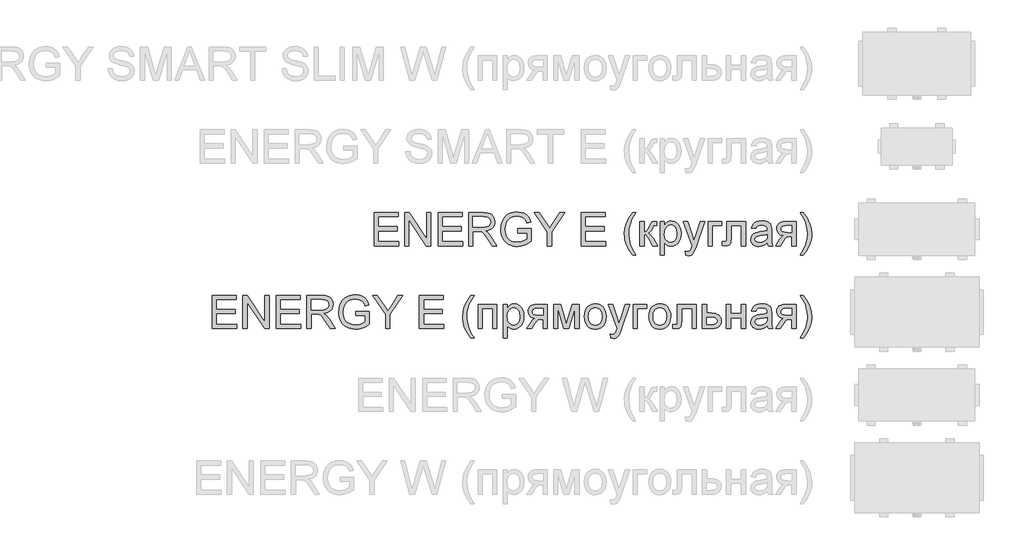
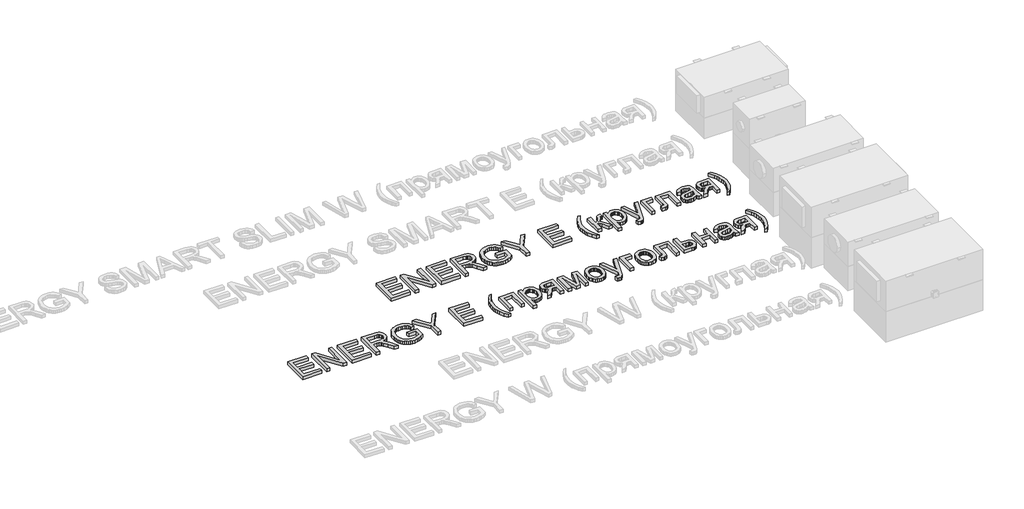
# One storey, part 23 of 28: 2 proxies.
"""IFC4 building model written with IfcOpenShell, lengths in millimetres."""

from ifc_helpers import new_model, si_unit, origin, origin_with_axes, place, context, project, spatial, polyline, outline, extrude, element, save

model = new_model("IFC4")

# Units and contexts
model_context = context("Model", 3, world=origin())
ifc_project = project(units=[si_unit("LENGTHUNIT", "METRE", prefix="MILLI")], contexts=[model_context])

# Site, building, storey
site = spatial("IfcSite", under=ifc_project)
building = spatial("IfcBuilding", under=site)
storey = spatial("IfcBuildingStorey", under=building, Name="Уровень 1", Elevation=0.0)

# Proxies
placement = place(None, origin())
element("IfcBuildingElementProxy", 1, Name="400 мм Arial", ObjectType="400 мм Arial", at=placement, inside=storey, context=model_context, shape_type="SweptSolid", body=[
    extrude(outline(polyline([(-27227.6713932, 18271.3067858), (-27227.6713932, 18673.1320263), (-26938.8595016, 18673.1320263), (-26938.8595016, 18622.9038713), (-27177.4432382, 18622.9038713), (-27177.4432382, 18503.612003), (-26951.4165403, 18503.612003), (-26951.4165403, 18453.3838479), (-27177.4432382, 18453.3838479), (-27177.4432382, 18321.5349408), (-26932.5809822, 18321.5349408), (-26932.5809822, 18271.3067858), (-27227.6713932, 18271.3067858)])), origin_with_axes(), (0.0, 0.0, 1.0), 50.0),
    extrude(outline(polyline([(-26857.2387496, 18271.3067858), (-26857.2387496, 18673.1320263), (-26803.4789273, 18673.1320263), (-26593.5409354, 18354.7914732), (-26593.5409354, 18673.1320263), (-26543.3127803, 18673.1320263), (-26543.3127803, 18271.3067858), (-26597.0726026, 18271.3067858), (-26807.0105945, 18589.7454408), (-26807.0105945, 18271.3067858), (-26857.2387496, 18271.3067858)])), origin_with_axes(), (0.0, 0.0, 1.0), 50.0),
    extrude(outline(polyline([(-26455.413509, 18271.3067858), (-26455.413509, 18673.1320263), (-26166.6016173, 18673.1320263), (-26166.6016173, 18622.9038713), (-26405.1853539, 18622.9038713), (-26405.1853539, 18503.612003), (-26179.1586561, 18503.612003), (-26179.1586561, 18453.3838479), (-26405.1853539, 18453.3838479), (-26405.1853539, 18321.5349408), (-26160.3230979, 18321.5349408), (-26160.3230979, 18271.3067858), (-26455.413509, 18271.3067858)])), origin_with_axes(), (0.0, 0.0, 1.0), 50.0),
    extrude(outline(polyline([(-26084.9808653, 18271.3067858), (-26084.9808653, 18673.1320263), (-25911.8310729, 18673.1320263), (-25865.2940005, 18670.4219623), (-25831.4365942, 18662.2917702), (-25806.6903987, 18647.2821848), (-25787.4869585, 18623.9339409), (-25775.1629117, 18594.9816278), (-25771.0548961, 18563.1598353), (-25772.7563503, 18542.5216553), (-25777.860713, 18523.5757326), (-25786.3679841, 18506.322067), (-25798.2781637, 18490.7606586), (-25813.7445359, 18477.3881481), (-25832.9203849, 18466.7011761), (-25855.8057107, 18458.6997427), (-25882.4005133, 18453.3838479), (-25853.8528704, 18431.8995394), (-25813.1405963, 18380.1998563), (-25746.1370223, 18271.3067858), (-25804.5076322, 18271.3067858), (-25856.7959264, 18354.5952695), (-25894.5651446, 18409.7285178), (-25908.6059741, 18425.804961), (-25921.1016992, 18435.7745631), (-25944.9895034, 18445.3394949), (-25974.1257574, 18447.1053285), (-26034.7527102, 18447.1053285), (-26034.7527102, 18271.3067858), (-26084.9808653, 18271.3067858)]), holes=[polyline([(-26034.7527102, 18497.3334836), (-25922.3279725, 18497.3334836), (-25890.040196, 18499.1115799), (-25864.9874322, 18504.4458688), (-25846.1273485, 18513.6919696), (-25832.4176129, 18527.2055016), (-25824.0666916, 18543.5517249), (-25821.2830511, 18561.2958998), (-25826.5928146, 18585.7968407), (-25842.522105, 18605.5398411), (-25854.6836706, 18613.1366043), (-25869.9293136, 18618.5628637), (-25909.6728318, 18622.9038713), (-26034.7527102, 18622.9038713), (-26034.7527102, 18497.3334836)])]), origin_with_axes(), (0.0, 0.0, 1.0), 50.0),
    extrude(outline(polyline([(-25494.8000432, 18428.2697704), (-25494.8000432, 18478.4979254), (-25331.5585392, 18478.4979254), (-25331.5585392, 18328.3039695), (-25371.228481, 18300.7128199), (-25412.1492216, 18280.9207686), (-25454.2226591, 18269.0013919), (-25497.3506917, 18265.0282664), (-25526.2018371, 18266.6070933), (-25553.6979506, 18271.343574), (-25579.839032, 18279.2377084), (-25604.6250814, 18290.2894967), (-25627.2559555, 18304.3333919), (-25646.9315109, 18321.203847), (-25663.6517476, 18340.9008622), (-25677.4166656, 18363.4244373), (-25688.1680169, 18388.0541369), (-25695.8475535, 18414.0695253), (-25700.4552755, 18441.4706026), (-25701.9911828, 18470.2573687), (-25695.872079, 18526.8498823), (-25688.2231992, 18553.6654141), (-25677.5147674, 18579.4937958), (-25663.9368561, 18603.2007247), (-25647.6795376, 18623.651898), (-25628.7428119, 18640.8473156), (-25607.126679, 18654.7869775), (-25583.3001885, 18665.5597886), (-25557.7323898, 18673.2546537), (-25530.423283, 18677.8715727), (-25501.3728681, 18679.4105457), (-25459.9984064, 18675.8420904), (-25422.793274, 18665.1367243), (-25391.4619907, 18648.0669997), (-25367.7090766, 18625.4054688), (-25350.1365799, 18596.0607484), (-25337.3465492, 18558.941455), (-25383.6506297, 18545.893907), (-25393.9881137, 18572.3691479), (-25406.5574152, 18592.3451402), (-25423.1856814, 18607.4037765), (-25445.7000595, 18619.1269495), (-25472.5431824, 18626.6685304), (-25502.1576831, 18629.1823907), (-25536.8244297, 18626.4723266), (-25566.4634558, 18618.3421345), (-25590.9643967, 18605.8096212), (-25610.2168878, 18589.8925936), (-25624.9934812, 18571.4126547), (-25636.0667293, 18551.1914077), (-25647.8389531, 18513.2750367), (-25651.7630278, 18472.3175079), (-25647.0418755, 18424.2843821), (-25632.8784187, 18384.7615931), (-25609.701853, 18354.0311837), (-25577.9413741, 18332.375197), (-25540.7730298, 18319.5361153), (-25501.3728681, 18315.2564214), (-25466.5834941, 18318.4815203), (-25432.6525114, 18328.1568167), (-25403.1851636, 18341.4864077), (-25381.7866942, 18355.67439), (-25381.7866942, 18428.2697704), (-25494.8000432, 18428.2697704)])), origin_with_axes(), (0.0, 0.0, 1.0), 50.0),
    extrude(outline(polyline([(-25136.9244382, 18271.3067858), (-25136.9244382, 18441.5135222), (-25293.8874229, 18673.1320263), (-25234.6338962, 18673.1320263), (-25150.8549031, 18549.4255741), (-25107.984388, 18486.3460747), (-25065.0157709, 18553.9382599), (-24988.9868253, 18673.1320263), (-24929.7332986, 18673.1320263), (-25086.6962832, 18441.5135222), (-25086.6962832, 18271.3067858), (-25136.9244382, 18271.3067858)])), origin_with_axes(), (0.0, 0.0, 1.0), 50.0),
    extrude(outline(polyline([(-24728.8206783, 18271.3067858), (-24728.8206783, 18673.1320263), (-24440.0087866, 18673.1320263), (-24440.0087866, 18622.9038713), (-24678.5925232, 18622.9038713), (-24678.5925232, 18503.612003), (-24452.5658254, 18503.612003), (-24452.5658254, 18453.3838479), (-24678.5925232, 18453.3838479), (-24678.5925232, 18321.5349408), (-24433.7302672, 18321.5349408), (-24433.7302672, 18271.3067858), (-24728.8206783, 18271.3067858)])), origin_with_axes(), (0.0, 0.0, 1.0), 50.0),
    extrude(outline(polyline([(-24107.2472592, 18158.2934368), (-24146.1691743, 18212.9116504), (-24178.5673153, 18276.1137772), (-24191.3144265, 18310.1673872), (-24200.4195059, 18344.8341339), (-24205.8825535, 18380.1140172), (-24207.7035694, 18416.0070372), (-24202.2589158, 18478.424349), (-24185.9249552, 18538.1438596), (-24153.5022887, 18605.7850958), (-24107.2472592, 18673.1320263), (-24069.5761429, 18673.1320263), (-24116.5669364, 18593.5714135), (-24132.6065914, 18555.8021954), (-24144.8202737, 18516.4633473), (-24154.3116291, 18466.2106668), (-24157.4754143, 18415.7127316), (-24151.9817098, 18351.3211197), (-24135.5005964, 18286.9540333), (-24108.0320741, 18222.6114723), (-24069.5761429, 18158.2934368), (-24107.2472592, 18158.2934368)])), origin_with_axes(), (0.0, 0.0, 1.0), 50.0),
    extrude(outline(polyline([(-24019.3479878, 18566.3971968), (-23969.1198328, 18566.3971968), (-23969.1198328, 18440.8268091), (-23948.6901193, 18443.083152), (-23935.4708929, 18449.8521807), (-23923.7722455, 18467.5105165), (-23907.9042688, 18502.4347806), (-23884.9974832, 18547.8068933), (-23875.5551787, 18556.967155), (-23864.7884989, 18562.5712241), (-23828.0493503, 18566.3971968), (-23818.4353675, 18566.3971968), (-23818.4353675, 18515.8747361), (-23831.973425, 18516.1690417), (-23847.6697234, 18514.8446666), (-23856.4988913, 18510.871541), (-23873.7648196, 18477.8112124), (-23884.3720838, 18455.7750809), (-23894.0228548, 18442.0530824), (-23905.7092395, 18432.8928208), (-23922.4233448, 18424.5418995), (-23906.5063172, 18417.4724338), (-23890.7364423, 18404.9951028), (-23875.1137203, 18387.1099065), (-23859.638151, 18363.8168448), (-23805.8783288, 18271.3067858), (-23862.9736144, 18271.3067858), (-23915.6543161, 18361.8548075), (-23929.8790866, 18385.9510782), (-23942.1418198, 18400.1635859), (-23954.5271803, 18407.1165556), (-23969.1198328, 18409.4342122), (-23969.1198328, 18271.3067858), (-24019.3479878, 18271.3067858), (-24019.3479878, 18566.3971968)])), origin_with_axes(), (0.0, 0.0, 1.0), 50.0),
    extrude(outline(polyline([(-23774.4857318, 18158.2934368), (-23774.4857318, 18566.3971968), (-23724.2575768, 18566.3971968), (-23724.2575768, 18517.1500604), (-23707.8745653, 18541.4425348), (-23689.5295164, 18558.7943022), (-23668.1433098, 18569.2053627), (-23642.6368248, 18572.6757162), (-23608.6690539, 18567.8196739), (-23578.9687141, 18553.2515469), (-23554.7866043, 18529.854252), (-23537.3735232, 18498.510706), (-23526.8520982, 18461.5017773), (-23523.3449565, 18421.1083342), (-23527.3058193, 18378.1519799), (-23539.1884077, 18339.7328369), (-23558.6125771, 18307.8006797), (-23585.1981826, 18284.3052829), (-23616.1615839, 18269.8475205), (-23648.7191404, 18265.0282664), (-23671.809867, 18268.2533652), (-23692.4235215, 18277.9286617), (-23710.0695945, 18292.5335769), (-23724.2575768, 18310.5475319), (-23724.2575768, 18158.2934368), (-23774.4857318, 18158.2934368)]), holes=[polyline([(-23724.2575768, 18416.4975465), (-23718.825186, 18371.4687903), (-23712.0346975, 18354.0311837), (-23702.5280136, 18339.9780915), (-23678.4807938, 18321.436839), (-23664.7189415, 18316.8015258), (-23649.7982609, 18315.2564214), (-23634.6629825, 18316.8567081), (-23620.6497442, 18321.6575682), (-23607.7585459, 18329.6590016), (-23595.9893878, 18340.8610083), (-23586.1822669, 18355.4230039), (-23579.1771806, 18373.504404), (-23574.9741288, 18395.1052085), (-23573.5731115, 18420.2254174), (-23579.0422905, 18465.0089189), (-23585.8787643, 18482.5814156), (-23595.4498275, 18496.9410761), (-23619.4602591, 18516.0709399), (-23633.0657615, 18520.8534058), (-23647.7381218, 18522.4475611), (-23662.3644968, 18520.7522383), (-23676.1263491, 18515.6662697), (-23701.0564856, 18495.3223953), (-23711.206963, 18480.2239051), (-23718.457304, 18462.0536003), (-23722.8075086, 18440.8114807), (-23724.2575768, 18416.4975465)])]), origin_with_axes(), (0.0, 0.0, 1.0), 50.0),
    extrude(outline(polyline([(-23466.838282, 18158.2934368), (-23473.1168014, 18206.6576565), (-23447.6103164, 18202.2430725), (-23434.1948863, 18203.6287614), (-23423.7715631, 18207.7858279), (-23409.1543852, 18223.2368717), (-23395.420124, 18260.221275), (-23391.4960494, 18272.3859063), (-23498.2308789, 18566.3971968), (-23445.2558716, 18566.3971968), (-23388.6510953, 18402.5670816), (-23368.9326204, 18337.0350356), (-23349.2141454, 18394.9151361), (-23291.0397392, 18566.3971968), (-23238.4571394, 18566.3971968), (-23341.1697925, 18264.2434514), (-23367.8534998, 18198.7114054), (-23381.5141846, 18177.7911826), (-23396.9897539, 18163.296632), (-23414.9669207, 18154.8353461), (-23436.1323981, 18152.0149174), (-23466.838282, 18158.2934368)])), origin_with_axes(), (0.0, 0.0, 1.0), 50.0),
    extrude(outline(polyline([(-23196.8619485, 18566.3971968), (-23033.6204445, 18566.3971968), (-23033.6204445, 18516.1690417), (-23146.6337934, 18516.1690417), (-23146.6337934, 18271.3067858), (-23196.8619485, 18271.3067858), (-23196.8619485, 18566.3971968)])), origin_with_axes(), (0.0, 0.0, 1.0), 50.0),
    extrude(outline(polyline([(-22970.8352506, 18566.3971968), (-22744.8085528, 18566.3971968), (-22744.8085528, 18271.6010913), (-22795.0367079, 18271.6010913), (-22795.0367079, 18516.1690417), (-22920.6070956, 18516.1690417), (-22920.6070956, 18375.3928649), (-22923.9916099, 18310.44943), (-22930.331443, 18295.746413), (-22942.5819134, 18283.0299587), (-22961.1722169, 18274.237579), (-22986.5315491, 18271.3067858), (-23027.3419251, 18273.8574343), (-23027.3419251, 18321.5349408), (-23004.8765979, 18321.5349408), (-22982.1660161, 18324.6251496), (-22973.0915936, 18334.4353361), (-22970.8352506, 18378.237819), (-22970.8352506, 18566.3971968)])), origin_with_axes(), (0.0, 0.0, 1.0), 50.0),
    extrude(outline(polyline([(-22481.1107387, 18308.9779021), (-22505.1089075, 18288.4010358), (-22529.8183148, 18274.9365548), (-22555.8030464, 18267.5053385), (-22583.627188, 18265.0282664), (-22605.9913476, 18266.5181884), (-22625.6025236, 18270.9879547), (-22642.4607161, 18278.4375651), (-22656.5659249, 18288.8670197), (-22667.7035523, 18301.6141308), (-22675.6590005, 18316.0167109), (-22680.4322693, 18332.07476), (-22682.023359, 18349.7882781), (-22679.6198633, 18370.610399), (-22672.4093762, 18389.5195335), (-22661.2870772, 18405.7063413), (-22647.1481458, 18418.361482), (-22630.5321424, 18427.9264138), (-22611.9786271, 18434.8425953), (-22568.5195007, 18442.396439), (-22517.1631742, 18450.3426901), (-22481.4050443, 18459.6623673), (-22481.1107387, 18470.8459799), (-22484.5688294, 18493.2622562), (-22494.9431017, 18507.928485), (-22518.1441928, 18518.8177921), (-22550.4687575, 18522.4475611), (-22580.3898264, 18520.0318027), (-22601.2855238, 18512.7845274), (-22615.5348197, 18499.38136), (-22625.5166845, 18478.4979254), (-22675.7448396, 18484.7764448), (-22667.0260363, 18512.2449671), (-22654.0152764, 18533.8273775), (-22635.4985493, 18550.3330164), (-22610.2618444, 18562.5712241), (-22579.396545, 18570.1495932), (-22543.9940344, 18572.6757162), (-22510.0385262, 18570.4438988), (-22483.1218269, 18563.7484465), (-22462.8270035, 18553.6807425), (-22448.7371231, 18541.3321702), (-22439.3929204, 18526.0650674), (-22433.3351302, 18507.241772), (-22430.8825836, 18463.2921363), (-22430.8825836, 18400.8012481), (-22428.3319351, 18313.5396388), (-22418.3255448, 18271.3067858), (-22468.5536999, 18271.3067858), (-22476.5980529, 18288.7689178), (-22481.1107387, 18308.9779021)]), holes=[polyline([(-22481.1107387, 18409.4342122), (-22514.8577804, 18401.0710282), (-22562.1428795, 18394.0322193), (-22605.3567512, 18385.8897645), (-22616.6016775, 18380.3224837), (-22624.9280733, 18372.6460127), (-22630.0784212, 18363.4489628), (-22631.7952039, 18353.3199452), (-22628.0550703, 18338.3839362), (-22616.8346694, 18326.1457285), (-22598.379256, 18317.9787482), (-22572.9340847, 18315.2564214), (-22545.9560717, 18318.2607911), (-22522.1173184, 18327.2739), (-22502.7912509, 18340.55444), (-22489.3512954, 18356.361103), (-22483.391607, 18372.6460127), (-22481.4050443, 18395.2094417), (-22481.1107387, 18409.4342122)])]), origin_with_axes(), (0.0, 0.0, 1.0), 50.0),
    extrude(outline(polyline([(-22135.7921725, 18566.3971968), (-22135.7921725, 18271.3067858), (-22186.0203276, 18271.3067858), (-22186.0203276, 18384.3201347), (-22213.390748, 18384.3201347), (-22235.2184131, 18382.7259794), (-22250.6694569, 18377.9435134), (-22265.556415, 18364.037574), (-22285.6918228, 18335.0729982), (-22325.7173839, 18271.3067858), (-22383.7936882, 18271.3067858), (-22333.3693294, 18351.9465191), (-22311.100206, 18380.8865694), (-22290.5969161, 18393.7379137), (-22324.932569, 18404.2593388), (-22338.2744227, 18413.0701126), (-22349.0656279, 18424.2475939), (-22363.3394493, 18450.8331994), (-22368.0973897, 18481.1466758), (-22366.4725776, 18499.2342072), (-22361.5981412, 18515.5313796), (-22353.4740804, 18530.038193), (-22342.1003954, 18542.7546473), (-22327.6487644, 18553.0982627), (-22310.2908656, 18560.4865594), (-22290.026699, 18564.9195375), (-22266.8562647, 18566.3971968), (-22135.7921725, 18566.3971968)]), holes=[polyline([(-22186.0203276, 18516.1690417), (-22252.2390867, 18516.1690417), (-22286.4398496, 18513.262774), (-22305.8517562, 18504.5439707), (-22314.864865, 18491.9256183), (-22317.8692347, 18477.3207031), (-22313.442388, 18458.1785766), (-22300.161848, 18444.8980365), (-22275.6241189, 18437.1357264), (-22237.4257051, 18434.5482897), (-22186.0203276, 18434.5482897), (-22186.0203276, 18516.1690417)])]), origin_with_axes(), (0.0, 0.0, 1.0), 50.0),
    extrude(outline(polyline([(-22047.8929011, 18158.2934368), (-22085.5640175, 18158.2934368), (-22047.1080862, 18222.6114723), (-22019.6395639, 18286.9540333), (-22003.1584505, 18351.3211197), (-21997.6647461, 18415.7127316), (-22000.8285312, 18465.8427848), (-22010.3198867, 18515.5804305), (-22022.3128397, 18554.992855), (-22038.2789183, 18592.7865986), (-22085.5640175, 18673.1320263), (-22047.8929011, 18673.1320263), (-22001.6378716, 18605.7850958), (-21969.2152051, 18538.1438596), (-21952.8812445, 18478.424349), (-21947.436591, 18416.0070372), (-21949.2668039, 18380.1140172), (-21954.7574427, 18344.8341339), (-21963.9085073, 18310.1673872), (-21976.7199978, 18276.1137772), (-22009.1549271, 18212.9116504), (-22047.8929011, 18158.2934368)])), origin_with_axes(), (0.0, 0.0, 1.0), 50.0),
])
element("IfcBuildingElementProxy", 2, Name="400 мм Arial", ObjectType="400 мм Arial", at=placement, inside=storey, context=model_context, shape_type="SweptSolid", body=[
    extrude(outline(polyline([(-29180.2909218, 17271.3067858), (-29180.2909218, 17673.1320263), (-28891.4790301, 17673.1320263), (-28891.4790301, 17622.9038713), (-29130.0627667, 17622.9038713), (-29130.0627667, 17503.612003), (-28904.0360689, 17503.612003), (-28904.0360689, 17453.3838479), (-29130.0627667, 17453.3838479), (-29130.0627667, 17321.5349408), (-28885.2005107, 17321.5349408), (-28885.2005107, 17271.3067858), (-29180.2909218, 17271.3067858)])), origin_with_axes(), (0.0, 0.0, 1.0), 50.0),
    extrude(outline(polyline([(-28809.8582781, 17271.3067858), (-28809.8582781, 17673.1320263), (-28756.0984559, 17673.1320263), (-28546.160464, 17354.7914732), (-28546.160464, 17673.1320263), (-28495.9323089, 17673.1320263), (-28495.9323089, 17271.3067858), (-28549.6921311, 17271.3067858), (-28759.630123, 17589.7454408), (-28759.630123, 17271.3067858), (-28809.8582781, 17271.3067858)])), origin_with_axes(), (0.0, 0.0, 1.0), 50.0),
    extrude(outline(polyline([(-28408.0330375, 17271.3067858), (-28408.0330375, 17673.1320263), (-28119.2211458, 17673.1320263), (-28119.2211458, 17622.9038713), (-28357.8048824, 17622.9038713), (-28357.8048824, 17503.612003), (-28131.7781846, 17503.612003), (-28131.7781846, 17453.3838479), (-28357.8048824, 17453.3838479), (-28357.8048824, 17321.5349408), (-28112.9426264, 17321.5349408), (-28112.9426264, 17271.3067858), (-28408.0330375, 17271.3067858)])), origin_with_axes(), (0.0, 0.0, 1.0), 50.0),
    extrude(outline(polyline([(-28037.6003938, 17271.3067858), (-28037.6003938, 17673.1320263), (-27864.4506014, 17673.1320263), (-27817.913529, 17670.4219623), (-27784.0561227, 17662.2917702), (-27759.3099272, 17647.2821848), (-27740.1064871, 17623.9339409), (-27727.7824402, 17594.9816278), (-27723.6744246, 17563.1598353), (-27725.3758788, 17542.5216553), (-27730.4802415, 17523.5757326), (-27738.9875126, 17506.322067), (-27750.8976922, 17490.7606586), (-27766.3640645, 17477.3881481), (-27785.5399135, 17466.7011761), (-27808.4252392, 17458.6997427), (-27835.0200418, 17453.3838479), (-27806.472399, 17431.8995394), (-27765.7601248, 17380.1998563), (-27698.7565508, 17271.3067858), (-27757.1271607, 17271.3067858), (-27809.4154549, 17354.5952695), (-27847.1846731, 17409.7285178), (-27861.2255026, 17425.804961), (-27873.7212277, 17435.7745631), (-27897.6090319, 17445.3394949), (-27926.7452859, 17447.1053285), (-27987.3722387, 17447.1053285), (-27987.3722387, 17271.3067858), (-28037.6003938, 17271.3067858)]), holes=[polyline([(-27987.3722387, 17497.3334836), (-27874.947501, 17497.3334836), (-27842.6597246, 17499.1115799), (-27817.6069607, 17504.4458688), (-27798.7468771, 17513.6919696), (-27785.0371414, 17527.2055016), (-27776.6862201, 17543.5517249), (-27773.9025797, 17561.2958998), (-27779.2123431, 17585.7968407), (-27795.1416335, 17605.5398411), (-27807.3031992, 17613.1366043), (-27822.5488422, 17618.5628637), (-27862.2923604, 17622.9038713), (-27987.3722387, 17622.9038713), (-27987.3722387, 17497.3334836)])]), origin_with_axes(), (0.0, 0.0, 1.0), 50.0),
    extrude(outline(polyline([(-27447.4195717, 17428.2697704), (-27447.4195717, 17478.4979254), (-27284.1780677, 17478.4979254), (-27284.1780677, 17328.3039695), (-27323.8480095, 17300.7128199), (-27364.7687501, 17280.9207686), (-27406.8421876, 17269.0013919), (-27449.9702202, 17265.0282664), (-27478.8213657, 17266.6070933), (-27506.3174791, 17271.343574), (-27532.4585606, 17279.2377084), (-27557.24461, 17290.2894967), (-27579.8754841, 17304.3333919), (-27599.5510394, 17321.203847), (-27616.2712761, 17340.9008622), (-27630.0361941, 17363.4244373), (-27640.7875454, 17388.0541369), (-27648.4670821, 17414.0695253), (-27653.074804, 17441.4706026), (-27654.6107114, 17470.2573687), (-27648.4916075, 17526.8498823), (-27640.8427277, 17553.6654141), (-27630.134296, 17579.4937958), (-27616.5563847, 17603.2007247), (-27600.2990662, 17623.651898), (-27581.3623404, 17640.8473156), (-27559.7462075, 17654.7869775), (-27535.919717, 17665.5597886), (-27510.3519183, 17673.2546537), (-27483.0428116, 17677.8715727), (-27453.9923967, 17679.4105457), (-27412.6179349, 17675.8420904), (-27375.4128025, 17665.1367243), (-27344.0815192, 17648.0669997), (-27320.3286051, 17625.4054688), (-27302.7561085, 17596.0607484), (-27289.9660778, 17558.941455), (-27336.2701582, 17545.893907), (-27346.6076423, 17572.3691479), (-27359.1769438, 17592.3451402), (-27375.80521, 17607.4037765), (-27398.3195881, 17619.1269495), (-27425.162711, 17626.6685304), (-27454.7772116, 17629.1823907), (-27489.4439583, 17626.4723266), (-27519.0829843, 17618.3421345), (-27543.5839252, 17605.8096212), (-27562.8364163, 17589.8925936), (-27577.6130098, 17571.4126547), (-27588.6862578, 17551.1914077), (-27600.4584817, 17513.2750367), (-27604.3825563, 17472.3175079), (-27599.661404, 17424.2843821), (-27585.4979472, 17384.7615931), (-27562.3213815, 17354.0311837), (-27530.5609026, 17332.375197), (-27493.3925584, 17319.5361153), (-27453.9923967, 17315.2564214), (-27419.2030227, 17318.4815203), (-27385.27204, 17328.1568167), (-27355.8046922, 17341.4864077), (-27334.4062228, 17355.67439), (-27334.4062228, 17428.2697704), (-27447.4195717, 17428.2697704)])), origin_with_axes(), (0.0, 0.0, 1.0), 50.0),
    extrude(outline(polyline([(-27089.5439668, 17271.3067858), (-27089.5439668, 17441.5135222), (-27246.5069514, 17673.1320263), (-27187.2534247, 17673.1320263), (-27103.4744317, 17549.4255741), (-27060.6039165, 17486.3460747), (-27017.6352995, 17553.9382599), (-26941.6063538, 17673.1320263), (-26882.3528271, 17673.1320263), (-27039.3158117, 17441.5135222), (-27039.3158117, 17271.3067858), (-27089.5439668, 17271.3067858)])), origin_with_axes(), (0.0, 0.0, 1.0), 50.0),
    extrude(outline(polyline([(-26681.4402068, 17271.3067858), (-26681.4402068, 17673.1320263), (-26392.6283151, 17673.1320263), (-26392.6283151, 17622.9038713), (-26631.2120517, 17622.9038713), (-26631.2120517, 17503.612003), (-26405.1853539, 17503.612003), (-26405.1853539, 17453.3838479), (-26631.2120517, 17453.3838479), (-26631.2120517, 17321.5349408), (-26386.3497957, 17321.5349408), (-26386.3497957, 17271.3067858), (-26681.4402068, 17271.3067858)])), origin_with_axes(), (0.0, 0.0, 1.0), 50.0),
    extrude(outline(polyline([(-26059.8667877, 17158.2934368), (-26098.7887028, 17212.9116504), (-26131.1868439, 17276.1137772), (-26143.933955, 17310.1673872), (-26153.0390344, 17344.8341339), (-26158.502082, 17380.1140172), (-26160.3230979, 17416.0070372), (-26154.8784444, 17478.424349), (-26138.5444838, 17538.1438596), (-26106.1218173, 17605.7850958), (-26059.8667877, 17673.1320263), (-26022.1956714, 17673.1320263), (-26069.186465, 17593.5714135), (-26085.2261199, 17555.8021954), (-26097.4398022, 17516.4633473), (-26106.9311577, 17466.2106668), (-26110.0949428, 17415.7127316), (-26104.6012384, 17351.3211197), (-26088.120125, 17286.9540333), (-26060.6516027, 17222.6114723), (-26022.1956714, 17158.2934368), (-26059.8667877, 17158.2934368)])), origin_with_axes(), (0.0, 0.0, 1.0), 50.0),
    extrude(outline(polyline([(-25971.9675164, 17566.3971968), (-25745.9408185, 17566.3971968), (-25745.9408185, 17271.3067858), (-25796.1689736, 17271.3067858), (-25796.1689736, 17516.1690417), (-25921.7393613, 17516.1690417), (-25921.7393613, 17271.3067858), (-25971.9675164, 17271.3067858), (-25971.9675164, 17566.3971968)])), origin_with_axes(), (0.0, 0.0, 1.0), 50.0),
    extrude(outline(polyline([(-25670.5985859, 17158.2934368), (-25670.5985859, 17566.3971968), (-25620.3704308, 17566.3971968), (-25620.3704308, 17517.1500604), (-25603.9874193, 17541.4425348), (-25585.6423705, 17558.7943022), (-25564.2561638, 17569.2053627), (-25538.7496788, 17572.6757162), (-25504.781908, 17567.8196739), (-25475.0815682, 17553.2515469), (-25450.8994584, 17529.854252), (-25433.4863773, 17498.510706), (-25422.9649522, 17461.5017773), (-25419.4578105, 17421.1083342), (-25423.4186734, 17378.1519799), (-25435.3012618, 17339.7328369), (-25454.7254311, 17307.8006797), (-25481.3110367, 17284.3052829), (-25512.2744379, 17269.8475205), (-25544.8319945, 17265.0282664), (-25567.9227211, 17268.2533652), (-25588.5363755, 17277.9286617), (-25606.1824486, 17292.5335769), (-25620.3704308, 17310.5475319), (-25620.3704308, 17158.2934368), (-25670.5985859, 17158.2934368)]), holes=[polyline([(-25620.3704308, 17416.4975465), (-25614.93804, 17371.4687903), (-25608.1475516, 17354.0311837), (-25598.6408677, 17339.9780915), (-25574.5936479, 17321.436839), (-25560.8317956, 17316.8015258), (-25545.911115, 17315.2564214), (-25530.7758366, 17316.8567081), (-25516.7625983, 17321.6575682), (-25503.8714, 17329.6590016), (-25492.1022419, 17340.8610083), (-25482.295121, 17355.4230039), (-25475.2900347, 17373.504404), (-25471.0869829, 17395.1052085), (-25469.6859656, 17420.2254174), (-25475.1551446, 17465.0089189), (-25481.9916184, 17482.5814156), (-25491.5626816, 17496.9410761), (-25515.5731132, 17516.0709399), (-25529.1786156, 17520.8534058), (-25543.8509758, 17522.4475611), (-25558.4773508, 17520.7522383), (-25572.2392031, 17515.6662697), (-25597.1693397, 17495.3223953), (-25607.3198171, 17480.2239051), (-25614.5701581, 17462.0536003), (-25618.9203626, 17440.8114807), (-25620.3704308, 17416.4975465)])]), origin_with_axes(), (0.0, 0.0, 1.0), 50.0),
    extrude(outline(polyline([(-25136.9244382, 17566.3971968), (-25136.9244382, 17271.3067858), (-25187.1525933, 17271.3067858), (-25187.1525933, 17384.3201347), (-25214.5230138, 17384.3201347), (-25236.3506788, 17382.7259794), (-25251.8017226, 17377.9435134), (-25266.6886807, 17364.037574), (-25286.8240885, 17335.0729982), (-25326.8496496, 17271.3067858), (-25384.9259539, 17271.3067858), (-25334.5015951, 17351.9465191), (-25312.2324717, 17380.8865694), (-25291.7291818, 17393.7379137), (-25326.0648347, 17404.2593388), (-25339.4066884, 17413.0701126), (-25350.1978936, 17424.2475939), (-25364.471715, 17450.8331994), (-25369.2296555, 17481.1466758), (-25367.6048433, 17499.2342072), (-25362.7304069, 17515.5313796), (-25354.6063462, 17530.038193), (-25343.2326611, 17542.7546473), (-25328.7810301, 17553.0982627), (-25311.4231313, 17560.4865594), (-25291.1589647, 17564.9195375), (-25267.9885304, 17566.3971968), (-25136.9244382, 17566.3971968)]), holes=[polyline([(-25187.1525933, 17516.1690417), (-25253.3713525, 17516.1690417), (-25287.5721153, 17513.262774), (-25306.9840219, 17504.5439707), (-25315.9971308, 17491.9256183), (-25319.0015004, 17477.3207031), (-25314.5746537, 17458.1785766), (-25301.2941137, 17444.8980365), (-25276.7563846, 17437.1357264), (-25238.5579708, 17434.5482897), (-25187.1525933, 17434.5482897), (-25187.1525933, 17516.1690417)])]), origin_with_axes(), (0.0, 0.0, 1.0), 50.0),
    extrude(outline(polyline([(-25061.5822056, 17566.3971968), (-24975.1544622, 17566.3971968), (-24908.5432956, 17330.167905), (-24836.7327302, 17566.3971968), (-24753.9347558, 17566.3971968), (-24753.9347558, 17271.3067858), (-24804.1629109, 17271.3067858), (-24804.1629109, 17508.9095037), (-24876.3658838, 17271.3067858), (-24942.2903373, 17271.3067858), (-25011.3540506, 17520.2893201), (-25011.3540506, 17271.3067858), (-25061.5822056, 17271.3067858), (-25061.5822056, 17566.3971968)])), origin_with_axes(), (0.0, 0.0, 1.0), 50.0),
    extrude(outline(polyline([(-24691.149562, 17418.8519913), (-24688.4333666, 17457.0687992), (-24680.2847804, 17490.0003692), (-24666.7038034, 17517.6467011), (-24647.6904356, 17540.007795), (-24628.5483091, 17554.3000105), (-24607.4196199, 17564.5087359), (-24584.3043678, 17570.6339711), (-24559.202553, 17572.6757162), (-24531.4918417, 17570.189447), (-24506.4360122, 17562.7306396), (-24484.0350644, 17550.2992938), (-24464.2889983, 17532.8954098), (-24448.1727012, 17511.1075986), (-24436.6610604, 17485.5244715), (-24429.754076, 17456.1460285), (-24427.4517478, 17422.9722696), (-24431.5229752, 17372.2290798), (-24443.7366575, 17333.6014703), (-24463.7371753, 17304.6736827), (-24491.1689094, 17283.0299587), (-24523.7509914, 17269.5286894), (-24559.202553, 17265.0282664), (-24587.3179345, 17267.5053385), (-24612.606756, 17274.9365548), (-24635.0690175, 17287.3219153), (-24654.704719, 17304.66142), (-24670.6493378, 17326.6607633), (-24682.0383512, 17353.0256396), (-24688.8717593, 17383.7560489), (-24691.149562, 17418.8519913)]), holes=[polyline([(-24640.9214069, 17418.9500931), (-24639.468273, 17394.587108), (-24635.1088714, 17373.4921413), (-24627.843202, 17355.6651929), (-24617.6712648, 17341.106263), (-24605.298167, 17329.7969573), (-24591.4290158, 17321.7188818), (-24576.0638111, 17316.8720365), (-24559.202553, 17315.2564214), (-24542.427134, 17316.8812336), (-24527.123243, 17321.75567), (-24513.29088, 17329.8797308), (-24500.930045, 17341.2534158), (-24490.7581078, 17355.9564328), (-24483.4924384, 17374.0684897), (-24479.1330368, 17395.5895865), (-24477.6799029, 17420.519723), (-24479.1422338, 17444.1101559), (-24483.5292266, 17464.6532997), (-24490.8408813, 17482.1491542), (-24501.0771978, 17496.5977196), (-24513.4840181, 17507.9070253), (-24527.307184, 17515.9851007), (-24542.5466957, 17520.831946), (-24559.202553, 17522.4475611), (-24576.0638111, 17520.8380774), (-24591.4290158, 17516.0096262), (-24605.298167, 17507.9622076), (-24617.6712648, 17496.6958215), (-24627.843202, 17482.1798111), (-24635.1088714, 17464.3835196), (-24639.468273, 17443.3069469), (-24640.9214069, 17418.9500931)])]), origin_with_axes(), (0.0, 0.0, 1.0), 50.0),
    extrude(outline(polyline([(-24370.9450734, 17158.2934368), (-24377.2235927, 17206.6576565), (-24351.7171077, 17202.2430725), (-24338.3016777, 17203.6287614), (-24327.8783545, 17207.7858279), (-24313.2611765, 17223.2368717), (-24299.5269154, 17260.221275), (-24295.6028407, 17272.3859063), (-24402.3376703, 17566.3971968), (-24349.362663, 17566.3971968), (-24292.7578866, 17402.5670816), (-24273.0394117, 17337.0350356), (-24253.3209368, 17394.9151361), (-24195.1465306, 17566.3971968), (-24142.5639308, 17566.3971968), (-24245.2765838, 17264.2434514), (-24271.9602912, 17198.7114054), (-24285.6209759, 17177.7911826), (-24301.0965452, 17163.296632), (-24319.073712, 17154.8353461), (-24340.2391895, 17152.0149174), (-24370.9450734, 17158.2934368)])), origin_with_axes(), (0.0, 0.0, 1.0), 50.0),
    extrude(outline(polyline([(-24100.9687398, 17566.3971968), (-23937.7272358, 17566.3971968), (-23937.7272358, 17516.1690417), (-24050.7405848, 17516.1690417), (-24050.7405848, 17271.3067858), (-24100.9687398, 17271.3067858), (-24100.9687398, 17566.3971968)])), origin_with_axes(), (0.0, 0.0, 1.0), 50.0),
    extrude(outline(polyline([(-23912.6131583, 17418.8519913), (-23909.8969629, 17457.0687992), (-23901.7483767, 17490.0003692), (-23888.1673997, 17517.6467011), (-23869.1540319, 17540.007795), (-23850.0119055, 17554.3000105), (-23828.8832162, 17564.5087359), (-23805.7679642, 17570.6339711), (-23780.6661494, 17572.6757162), (-23752.9554381, 17570.189447), (-23727.8996085, 17562.7306396), (-23705.4986607, 17550.2992938), (-23685.7525946, 17532.8954098), (-23669.6362975, 17511.1075986), (-23658.1246568, 17485.5244715), (-23651.2176723, 17456.1460285), (-23648.9153442, 17422.9722696), (-23652.9865716, 17372.2290798), (-23665.2002538, 17333.6014703), (-23685.2007716, 17304.6736827), (-23712.6325057, 17283.0299587), (-23745.2145878, 17269.5286894), (-23780.6661494, 17265.0282664), (-23808.7815308, 17267.5053385), (-23834.0703523, 17274.9365548), (-23856.5326138, 17287.3219153), (-23876.1683153, 17304.66142), (-23892.1129341, 17326.6607633), (-23903.5019476, 17353.0256396), (-23910.3353556, 17383.7560489), (-23912.6131583, 17418.8519913)]), holes=[polyline([(-23862.3850032, 17418.9500931), (-23860.9318693, 17394.587108), (-23856.5724677, 17373.4921413), (-23849.3067983, 17355.6651929), (-23839.1348611, 17341.106263), (-23826.7617634, 17329.7969573), (-23812.8926121, 17321.7188818), (-23797.5274075, 17316.8720365), (-23780.6661494, 17315.2564214), (-23763.8907304, 17316.8812336), (-23748.5868394, 17321.75567), (-23734.7544764, 17329.8797308), (-23722.3936413, 17341.2534158), (-23712.2217042, 17355.9564328), (-23704.9560348, 17374.0684897), (-23700.5966331, 17395.5895865), (-23699.1434992, 17420.519723), (-23700.6058302, 17444.1101559), (-23704.992823, 17464.6532997), (-23712.3044776, 17482.1491542), (-23722.5407941, 17496.5977196), (-23734.9476144, 17507.9070253), (-23748.7707804, 17515.9851007), (-23764.010292, 17520.831946), (-23780.6661494, 17522.4475611), (-23797.5274075, 17520.8380774), (-23812.8926121, 17516.0096262), (-23826.7617634, 17507.9622076), (-23839.1348611, 17496.6958215), (-23849.3067983, 17482.1798111), (-23856.5724677, 17464.3835196), (-23860.9318693, 17443.3069469), (-23862.3850032, 17418.9500931)])]), origin_with_axes(), (0.0, 0.0, 1.0), 50.0),
    extrude(outline(polyline([(-23567.2945922, 17566.3971968), (-23341.2678943, 17566.3971968), (-23341.2678943, 17271.6010913), (-23391.4960494, 17271.6010913), (-23391.4960494, 17516.1690417), (-23517.0664371, 17516.1690417), (-23517.0664371, 17375.3928649), (-23520.4509514, 17310.44943), (-23526.7907845, 17295.746413), (-23539.0412549, 17283.0299587), (-23557.6315584, 17274.237579), (-23582.9908906, 17271.3067858), (-23623.8012666, 17273.8574343), (-23623.8012666, 17321.5349408), (-23601.3359394, 17321.5349408), (-23578.6253576, 17324.6251496), (-23569.5509351, 17334.4353361), (-23567.2945922, 17378.237819), (-23567.2945922, 17566.3971968)])), origin_with_axes(), (0.0, 0.0, 1.0), 50.0),
    extrude(outline(polyline([(-23265.9256617, 17566.3971968), (-23215.6975066, 17566.3971968), (-23215.6975066, 17459.6623673), (-23157.8174061, 17459.6623673), (-23131.0969105, 17458.0896718), (-23107.6383019, 17453.3715852), (-23087.4415804, 17445.5081075), (-23070.5067459, 17434.4992388), (-23057.1158412, 17420.7251238), (-23047.5509094, 17404.5659071), (-23041.8119502, 17386.0215889), (-23039.8989639, 17365.0921691), (-23041.5268417, 17346.4190921), (-23046.4104752, 17329.1500981), (-23054.5498643, 17313.2851871), (-23065.9450091, 17298.824359), (-23080.920872, 17286.7854207), (-23099.8024154, 17278.1861791), (-23122.5896393, 17273.0266341), (-23149.2825438, 17271.3067858), (-23265.9256617, 17271.3067858), (-23265.9256617, 17566.3971968)]), holes=[polyline([(-23215.6975066, 17321.5349408), (-23168.804815, 17321.5349408), (-23132.4212857, 17324.1714285), (-23108.2269131, 17332.0808914), (-23094.6520675, 17345.5821606), (-23090.1271189, 17364.9940672), (-23093.4748451, 17381.4016042), (-23103.5180236, 17395.8961548), (-23112.2460239, 17401.8190549), (-23125.0391203, 17406.0496979), (-23162.8206012, 17409.4342122), (-23215.6975066, 17409.4342122), (-23215.6975066, 17321.5349408)])]), origin_with_axes(), (0.0, 0.0, 1.0), 50.0),
    extrude(outline(polyline([(-22977.11377, 17566.3971968), (-22926.885615, 17566.3971968), (-22926.885615, 17453.3838479), (-22795.0367079, 17453.3838479), (-22795.0367079, 17566.3971968), (-22744.8085528, 17566.3971968), (-22744.8085528, 17271.3067858), (-22795.0367079, 17271.3067858), (-22795.0367079, 17403.1556928), (-22926.885615, 17403.1556928), (-22926.885615, 17271.3067858), (-22977.11377, 17271.3067858), (-22977.11377, 17566.3971968)])), origin_with_axes(), (0.0, 0.0, 1.0), 50.0),
    extrude(outline(polyline([(-22481.1107387, 17308.9779021), (-22505.1089075, 17288.4010358), (-22529.8183148, 17274.9365548), (-22555.8030464, 17267.5053385), (-22583.627188, 17265.0282664), (-22605.9913476, 17266.5181884), (-22625.6025236, 17270.9879547), (-22642.4607161, 17278.4375651), (-22656.5659249, 17288.8670197), (-22667.7035523, 17301.6141308), (-22675.6590005, 17316.0167109), (-22680.4322693, 17332.07476), (-22682.023359, 17349.7882781), (-22679.6198633, 17370.610399), (-22672.4093762, 17389.5195335), (-22661.2870772, 17405.7063413), (-22647.1481458, 17418.361482), (-22630.5321424, 17427.9264138), (-22611.9786271, 17434.8425953), (-22568.5195007, 17442.396439), (-22517.1631742, 17450.3426901), (-22481.4050443, 17459.6623673), (-22481.1107387, 17470.8459799), (-22484.5688294, 17493.2622562), (-22494.9431017, 17507.928485), (-22518.1441928, 17518.8177921), (-22550.4687575, 17522.4475611), (-22580.3898264, 17520.0318027), (-22601.2855238, 17512.7845274), (-22615.5348197, 17499.38136), (-22625.5166845, 17478.4979254), (-22675.7448396, 17484.7764448), (-22667.0260363, 17512.2449671), (-22654.0152764, 17533.8273775), (-22635.4985493, 17550.3330164), (-22610.2618444, 17562.5712241), (-22579.396545, 17570.1495932), (-22543.9940344, 17572.6757162), (-22510.0385262, 17570.4438988), (-22483.1218269, 17563.7484465), (-22462.8270035, 17553.6807425), (-22448.7371231, 17541.3321702), (-22439.3929204, 17526.0650674), (-22433.3351302, 17507.241772), (-22430.8825836, 17463.2921363), (-22430.8825836, 17400.8012481), (-22428.3319351, 17313.5396388), (-22418.3255448, 17271.3067858), (-22468.5536999, 17271.3067858), (-22476.5980529, 17288.7689178), (-22481.1107387, 17308.9779021)]), holes=[polyline([(-22481.1107387, 17409.4342122), (-22514.8577804, 17401.0710282), (-22562.1428795, 17394.0322193), (-22605.3567512, 17385.8897645), (-22616.6016775, 17380.3224837), (-22624.9280733, 17372.6460127), (-22630.0784212, 17363.4489628), (-22631.7952039, 17353.3199452), (-22628.0550703, 17338.3839362), (-22616.8346694, 17326.1457285), (-22598.379256, 17317.9787482), (-22572.9340847, 17315.2564214), (-22545.9560717, 17318.2607911), (-22522.1173184, 17327.2739), (-22502.7912509, 17340.55444), (-22489.3512954, 17356.361103), (-22483.391607, 17372.6460127), (-22481.4050443, 17395.2094417), (-22481.1107387, 17409.4342122)])]), origin_with_axes(), (0.0, 0.0, 1.0), 50.0),
    extrude(outline(polyline([(-22135.7921725, 17566.3971968), (-22135.7921725, 17271.3067858), (-22186.0203276, 17271.3067858), (-22186.0203276, 17384.3201347), (-22213.390748, 17384.3201347), (-22235.2184131, 17382.7259794), (-22250.6694569, 17377.9435134), (-22265.556415, 17364.037574), (-22285.6918228, 17335.0729982), (-22325.7173839, 17271.3067858), (-22383.7936882, 17271.3067858), (-22333.3693294, 17351.9465191), (-22311.100206, 17380.8865694), (-22290.5969161, 17393.7379137), (-22324.932569, 17404.2593388), (-22338.2744227, 17413.0701126), (-22349.0656279, 17424.2475939), (-22363.3394493, 17450.8331994), (-22368.0973897, 17481.1466758), (-22366.4725776, 17499.2342072), (-22361.5981412, 17515.5313796), (-22353.4740804, 17530.038193), (-22342.1003954, 17542.7546473), (-22327.6487644, 17553.0982627), (-22310.2908656, 17560.4865594), (-22290.026699, 17564.9195375), (-22266.8562647, 17566.3971968), (-22135.7921725, 17566.3971968)]), holes=[polyline([(-22186.0203276, 17516.1690417), (-22252.2390867, 17516.1690417), (-22286.4398496, 17513.262774), (-22305.8517562, 17504.5439707), (-22314.864865, 17491.9256183), (-22317.8692347, 17477.3207031), (-22313.442388, 17458.1785766), (-22300.161848, 17444.8980365), (-22275.6241189, 17437.1357264), (-22237.4257051, 17434.5482897), (-22186.0203276, 17434.5482897), (-22186.0203276, 17516.1690417)])]), origin_with_axes(), (0.0, 0.0, 1.0), 50.0),
    extrude(outline(polyline([(-22047.8929011, 17158.2934368), (-22085.5640175, 17158.2934368), (-22047.1080862, 17222.6114723), (-22019.6395639, 17286.9540333), (-22003.1584505, 17351.3211197), (-21997.6647461, 17415.7127316), (-22000.8285312, 17465.8427848), (-22010.3198867, 17515.5804305), (-22022.3128397, 17554.992855), (-22038.2789183, 17592.7865986), (-22085.5640175, 17673.1320263), (-22047.8929011, 17673.1320263), (-22001.6378716, 17605.7850958), (-21969.2152051, 17538.1438596), (-21952.8812445, 17478.424349), (-21947.436591, 17416.0070372), (-21949.2668039, 17380.1140172), (-21954.7574427, 17344.8341339), (-21963.9085073, 17310.1673872), (-21976.7199978, 17276.1137772), (-22009.1549271, 17212.9116504), (-22047.8929011, 17158.2934368)])), origin_with_axes(), (0.0, 0.0, 1.0), 50.0),
])

save(model, "model.ifc")
